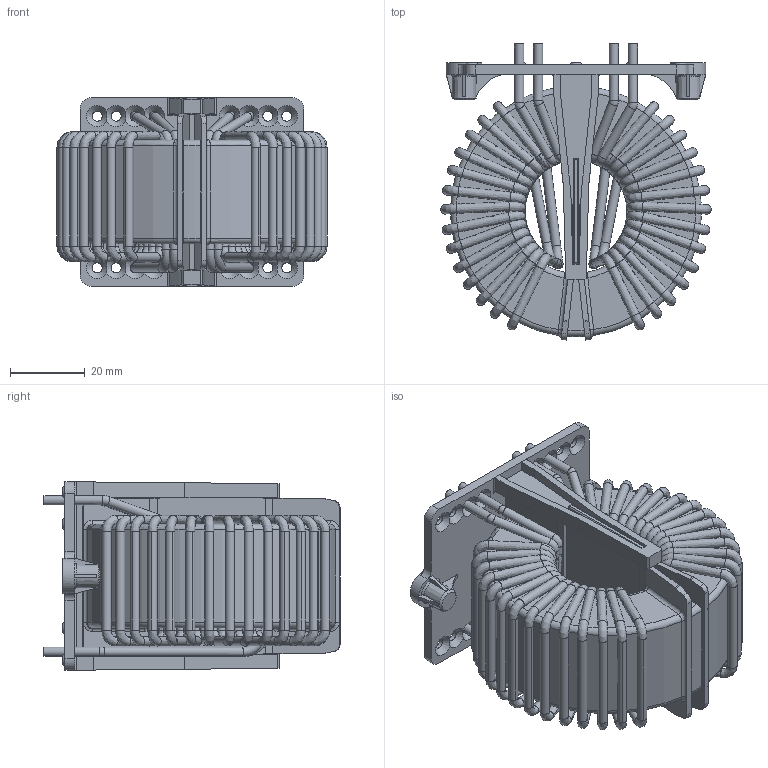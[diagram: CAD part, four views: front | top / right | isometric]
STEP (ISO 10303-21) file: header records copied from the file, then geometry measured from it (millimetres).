
FILE_DESCRIPTION((''),'2;1');
FILE_NAME('K:\Development\Projects\RB\Angel_standard choke series 2011\70_Realization_Revision\702_MechanicalDesign\Drawing for Harald\RB8522-50-0M8.stp','2012-10-30T15:05:13',('Fiona.chen'),(''),'Autodesk Inventor 2010','Autodesk Inventor 2010','');
FILE_SCHEMA(('AUTOMOTIVE_DESIGN { 1 0 10303 214 1 1 1 1 }'));
Length unit declared in the file: millimetre
Products named in the file (1): RB8522-50-0M8
Bounding box: 72.47 x 79.36 x 50.5 mm (x, y, z)
Volume: 103622.3 mm3; surface area: 53947.3 mm2
Topology: 1 solids, 1 shells, 1072 faces, 3353 edges, 2203 vertices
Faces by surface type: plane 455, bspline 360, cylinder 165, torus 52, cone 40
Full cylindrical faces by diameter (mm): 2.5 x24, 2.7 x8, 3 x8, 9.6 x2
Entity records: 48037 total; most frequent: CARTESIAN_POINT 18915, ORIENTED_EDGE 6448, DIRECTION 5366, EDGE_CURVE 3224, VERTEX_POINT 2160, AXIS2_PLACEMENT_3D 2059, VECTOR 1248, LINE 1248
